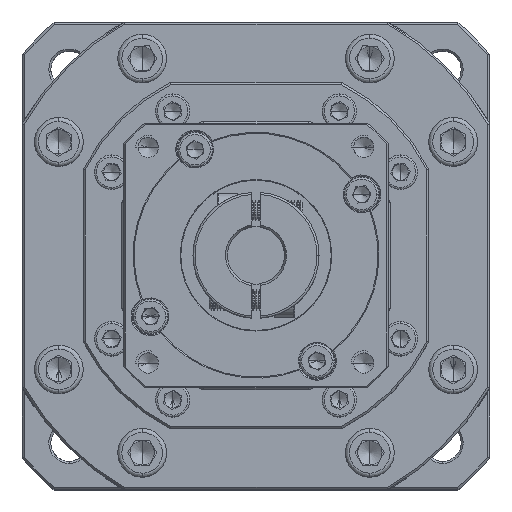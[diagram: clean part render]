
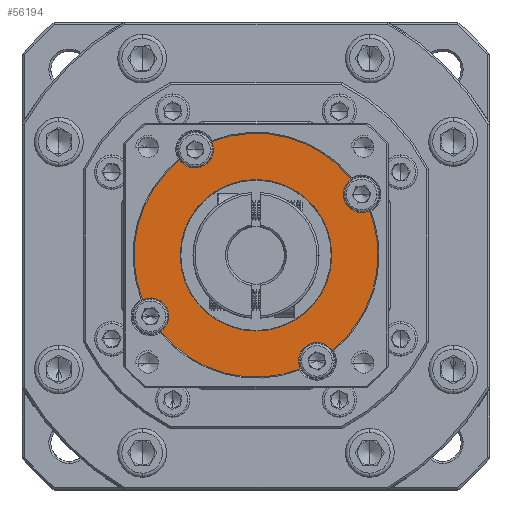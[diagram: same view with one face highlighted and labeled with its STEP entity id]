
A CAD part, top view. The second image highlights one B-rep face of the part: STEP entity #56194.
In plain terms, the highlighted planar face has unit normal (0, 0, 1).
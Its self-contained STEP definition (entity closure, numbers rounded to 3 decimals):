
#453 = VERTEX_POINT ( 'NONE', #86200 ) ;
#1536 = AXIS2_PLACEMENT_3D ( 'NONE', #70038, #14272, #79422 ) ;
#2771 = CARTESIAN_POINT ( 'NONE',  ( -79.679, 50.733, -3.698 ) ) ;
#2830 = VERTEX_POINT ( 'NONE', #39505 ) ;
#4722 = VERTEX_POINT ( 'NONE', #74152 ) ;
#5360 = ORIENTED_EDGE ( 'NONE', *, *, #118291, .F. ) ;
#5392 = EDGE_CURVE ( 'NONE', #453, #114791, #56440, .T. ) ;
#5766 = ORIENTED_EDGE ( 'NONE', *, *, #78296, .F. ) ;
#6013 = ORIENTED_EDGE ( 'NONE', *, *, #106848, .F. ) ;
#6754 = CARTESIAN_POINT ( 'NONE',  ( -71.906, 55.221, -3.698 ) ) ;
#7192 = CIRCLE ( 'NONE', #43390, 30. ) ;
#7287 = EDGE_CURVE ( 'NONE', #4722, #104065, #31806, .T. ) ;
#7452 = ORIENTED_EDGE ( 'NONE', *, *, #22469, .T. ) ;
#7847 = DIRECTION ( 'NONE',  ( 1., 0., 0. ) ) ;
#8284 = AXIS2_PLACEMENT_3D ( 'NONE', #68086, #12352, #77453 ) ;
#8382 = DIRECTION ( 'NONE',  ( 1., 0., 0. ) ) ;
#8725 = DIRECTION ( 'NONE',  ( 1., 0., 0. ) ) ;
#10483 = AXIS2_PLACEMENT_3D ( 'NONE', #119277, #63457, #7847 ) ;
#12352 = DIRECTION ( 'NONE',  ( 0., 0., 1. ) ) ;
#12406 = CARTESIAN_POINT ( 'NONE',  ( -34.981, 42.289, -3.698 ) ) ;
#12507 = VERTEX_POINT ( 'NONE', #82499 ) ;
#13456 = AXIS2_PLACEMENT_3D ( 'NONE', #31183, #96250, #40423 ) ;
#14272 = DIRECTION ( 'NONE',  ( 0., 0., 1. ) ) ;
#15971 = AXIS2_PLACEMENT_3D ( 'NONE', #79952, #24180, #89257 ) ;
#17464 = CIRCLE ( 'NONE', #15971, 18.644 ) ;
#21746 = VERTEX_POINT ( 'NONE', #91969 ) ;
#21761 = DIRECTION ( 'NONE',  ( 1., 0., 0. ) ) ;
#21832 = CARTESIAN_POINT ( 'NONE',  ( -34.981, 42.289, -3.698 ) ) ;
#22256 = DIRECTION ( 'NONE',  ( 0., 0., 1. ) ) ;
#22469 = EDGE_CURVE ( 'NONE', #75748, #114791, #35861, .T. ) ;
#24180 = DIRECTION ( 'NONE',  ( 0., 0., -1. ) ) ;
#24533 = AXIS2_PLACEMENT_3D ( 'NONE', #39106, #104317, #48440 ) ;
#27094 = EDGE_CURVE ( 'NONE', #66024, #44083, #17464, .T. ) ;
#27923 = CARTESIAN_POINT ( 'NONE',  ( -79.606, 27.289, -3.698 ) ) ;
#29345 = CARTESIAN_POINT ( 'NONE',  ( -33.029, 38.234, -3.698 ) ) ;
#30503 = CIRCLE ( 'NONE', #115603, 4.5 ) ;
#31183 = CARTESIAN_POINT ( 'NONE',  ( -60.961, 27.289, -3.698 ) ) ;
#31222 = DIRECTION ( 'NONE',  ( 1., 0., 0. ) ) ;
#31467 = CIRCLE ( 'NONE', #76590, 4.5 ) ;
#31806 = CIRCLE ( 'NONE', #13456, 30. ) ;
#34258 = AXIS2_PLACEMENT_3D ( 'NONE', #99289, #43481, #108632 ) ;
#35861 = CIRCLE ( 'NONE', #10483, 30. ) ;
#36170 = VERTEX_POINT ( 'NONE', #29345 ) ;
#36174 = DIRECTION ( 'NONE',  ( 0., 0., -1. ) ) ;
#36881 = AXIS2_PLACEMENT_3D ( 'NONE', #104683, #48826, #114036 ) ;
#38925 = CARTESIAN_POINT ( 'NONE',  ( -60.961, 27.289, -3.698 ) ) ;
#39106 = CARTESIAN_POINT ( 'NONE',  ( -86.942, 12.289, -3.698 ) ) ;
#39505 = CARTESIAN_POINT ( 'NONE',  ( -50.016, -0.644, -3.698 ) ) ;
#40423 = DIRECTION ( 'NONE',  ( 1., 0., 0. ) ) ;
#40622 = ORIENTED_EDGE ( 'NONE', *, *, #27094, .T. ) ;
#41889 = CARTESIAN_POINT ( 'NONE',  ( -30.961, 27.289, -3.698 ) ) ;
#43049 = CARTESIAN_POINT ( 'NONE',  ( -42.317, 27.289, -3.698 ) ) ;
#43390 = AXIS2_PLACEMENT_3D ( 'NONE', #78021, #22256, #87327 ) ;
#43481 = DIRECTION ( 'NONE',  ( 0., 0., 1. ) ) ;
#44083 = VERTEX_POINT ( 'NONE', #27923 ) ;
#45339 = ORIENTED_EDGE ( 'NONE', *, *, #50978, .F. ) ;
#48261 = DIRECTION ( 'NONE',  ( 1., 0., 0. ) ) ;
#48440 = DIRECTION ( 'NONE',  ( 1., 0., 0. ) ) ;
#48826 = DIRECTION ( 'NONE',  ( 0., 0., 1. ) ) ;
#50978 = EDGE_CURVE ( 'NONE', #75748, #12507, #84906, .T. ) ;
#53320 = ORIENTED_EDGE ( 'NONE', *, *, #5392, .F. ) ;
#55316 = DIRECTION ( 'NONE',  ( 0., 0., 1. ) ) ;
#56194 = ADVANCED_FACE ( 'NONE', ( #66182, #115758 ), #57871, .T. ) ;
#56260 = EDGE_LOOP ( 'NONE', ( #111596, #74420, #113473, #6013, #115970, #64661, #5360, #45339, #7452, #53320, #90703, #59485, #5766 ) ) ;
#56440 = CIRCLE ( 'NONE', #1536, 4.5 ) ;
#57181 = CIRCLE ( 'NONE', #24533, 4.5 ) ;
#57300 = EDGE_CURVE ( 'NONE', #87346, #2830, #65607, .T. ) ;
#57871 = PLANE ( 'NONE',  #36881 ) ;
#59485 = ORIENTED_EDGE ( 'NONE', *, *, #92530, .T. ) ;
#60276 = CIRCLE ( 'NONE', #67359, 30. ) ;
#62383 = CIRCLE ( 'NONE', #104890, 18.644 ) ;
#63457 = DIRECTION ( 'NONE',  ( 0., 0., 1. ) ) ;
#64024 = DIRECTION ( 'NONE',  ( 0., 0., 1. ) ) ;
#64364 = DIRECTION ( 'NONE',  ( 0., 0., 1. ) ) ;
#64661 = ORIENTED_EDGE ( 'NONE', *, *, #98564, .T. ) ;
#65607 = CIRCLE ( 'NONE', #8284, 4.5 ) ;
#65900 = CARTESIAN_POINT ( 'NONE',  ( -88.894, 16.343, -3.698 ) ) ;
#66024 = VERTEX_POINT ( 'NONE', #43049 ) ;
#66182 = FACE_BOUND ( 'NONE', #89701, .T. ) ;
#67359 = AXIS2_PLACEMENT_3D ( 'NONE', #111052, #55316, #120427 ) ;
#68086 = CARTESIAN_POINT ( 'NONE',  ( -45.961, 1.308, -3.698 ) ) ;
#68621 = VERTEX_POINT ( 'NONE', #2771 ) ;
#70038 = CARTESIAN_POINT ( 'NONE',  ( -75.961, 53.269, -3.698 ) ) ;
#72579 = VERTEX_POINT ( 'NONE', #65900 ) ;
#73095 = EDGE_CURVE ( 'NONE', #110927, #2830, #104844, .T. ) ;
#74152 = CARTESIAN_POINT ( 'NONE',  ( -42.244, 3.844, -3.698 ) ) ;
#74420 = ORIENTED_EDGE ( 'NONE', *, *, #73095, .T. ) ;
#75748 = VERTEX_POINT ( 'NONE', #107810 ) ;
#76590 = AXIS2_PLACEMENT_3D ( 'NONE', #119836, #64024, #8382 ) ;
#76884 = AXIS2_PLACEMENT_3D ( 'NONE', #120188, #64364, #8725 ) ;
#77453 = DIRECTION ( 'NONE',  ( 1., 0., 0. ) ) ;
#77508 = DIRECTION ( 'NONE',  ( 0., 0., 1. ) ) ;
#78021 = CARTESIAN_POINT ( 'NONE',  ( -60.961, 27.289, -3.698 ) ) ;
#78296 = EDGE_CURVE ( 'NONE', #21746, #72579, #31467, .T. ) ;
#79422 = DIRECTION ( 'NONE',  ( 1., 0., 0. ) ) ;
#79952 = CARTESIAN_POINT ( 'NONE',  ( -60.961, 27.289, -3.698 ) ) ;
#82499 = CARTESIAN_POINT ( 'NONE',  ( -39.481, 42.289, -3.698 ) ) ;
#84906 = CIRCLE ( 'NONE', #87697, 4.5 ) ;
#86200 = CARTESIAN_POINT ( 'NONE',  ( -71.461, 53.269, -3.698 ) ) ;
#86861 = DIRECTION ( 'NONE',  ( 0., 0., 1. ) ) ;
#87327 = DIRECTION ( 'NONE',  ( 1., 0., 0. ) ) ;
#87346 = VERTEX_POINT ( 'NONE', #115150 ) ;
#87697 = AXIS2_PLACEMENT_3D ( 'NONE', #21832, #86861, #31222 ) ;
#89257 = DIRECTION ( 'NONE',  ( 1., 0., 0. ) ) ;
#89701 = EDGE_LOOP ( 'NONE', ( #40622, #96102 ) ) ;
#90703 = ORIENTED_EDGE ( 'NONE', *, *, #114969, .F. ) ;
#90856 = EDGE_CURVE ( 'NONE', #110927, #21746, #57181, .T. ) ;
#91934 = CARTESIAN_POINT ( 'NONE',  ( -60.961, 27.289, -3.698 ) ) ;
#91969 = CARTESIAN_POINT ( 'NONE',  ( -82.442, 12.289, -3.698 ) ) ;
#92530 = EDGE_CURVE ( 'NONE', #68621, #72579, #7192, .T. ) ;
#96102 = ORIENTED_EDGE ( 'NONE', *, *, #104245, .T. ) ;
#96250 = DIRECTION ( 'NONE',  ( 0., 0., 1. ) ) ;
#98564 = EDGE_CURVE ( 'NONE', #104065, #36170, #60276, .T. ) ;
#99289 = CARTESIAN_POINT ( 'NONE',  ( -45.961, 1.308, -3.698 ) ) ;
#100463 = AXIS2_PLACEMENT_3D ( 'NONE', #38925, #104143, #48261 ) ;
#101307 = DIRECTION ( 'NONE',  ( 1., 0., 0. ) ) ;
#104065 = VERTEX_POINT ( 'NONE', #41889 ) ;
#104143 = DIRECTION ( 'NONE',  ( 0., 0., 1. ) ) ;
#104245 = EDGE_CURVE ( 'NONE', #44083, #66024, #62383, .T. ) ;
#104317 = DIRECTION ( 'NONE',  ( 0., 0., 1. ) ) ;
#104683 = CARTESIAN_POINT ( 'NONE',  ( -60.961, 27.289, -3.698 ) ) ;
#104844 = CIRCLE ( 'NONE', #100463, 30. ) ;
#104890 = AXIS2_PLACEMENT_3D ( 'NONE', #91934, #36174, #101307 ) ;
#106848 = EDGE_CURVE ( 'NONE', #4722, #87346, #115515, .T. ) ;
#107810 = CARTESIAN_POINT ( 'NONE',  ( -37.517, 46.006, -3.698 ) ) ;
#108632 = DIRECTION ( 'NONE',  ( 1., 0., 0. ) ) ;
#110927 = VERTEX_POINT ( 'NONE', #113611 ) ;
#111052 = CARTESIAN_POINT ( 'NONE',  ( -60.961, 27.289, -3.698 ) ) ;
#111596 = ORIENTED_EDGE ( 'NONE', *, *, #90856, .F. ) ;
#113473 = ORIENTED_EDGE ( 'NONE', *, *, #57300, .F. ) ;
#113611 = CARTESIAN_POINT ( 'NONE',  ( -84.406, 8.571, -3.698 ) ) ;
#114036 = DIRECTION ( 'NONE',  ( 1., 0., 0. ) ) ;
#114791 = VERTEX_POINT ( 'NONE', #6754 ) ;
#114969 = EDGE_CURVE ( 'NONE', #68621, #453, #117046, .T. ) ;
#115150 = CARTESIAN_POINT ( 'NONE',  ( -50.461, 1.308, -3.698 ) ) ;
#115515 = CIRCLE ( 'NONE', #34258, 4.5 ) ;
#115603 = AXIS2_PLACEMENT_3D ( 'NONE', #12406, #77508, #21761 ) ;
#115758 = FACE_OUTER_BOUND ( 'NONE', #56260, .T. ) ;
#115970 = ORIENTED_EDGE ( 'NONE', *, *, #7287, .T. ) ;
#117046 = CIRCLE ( 'NONE', #76884, 4.5 ) ;
#118291 = EDGE_CURVE ( 'NONE', #12507, #36170, #30503, .T. ) ;
#119277 = CARTESIAN_POINT ( 'NONE',  ( -60.961, 27.289, -3.698 ) ) ;
#119836 = CARTESIAN_POINT ( 'NONE',  ( -86.942, 12.289, -3.698 ) ) ;
#120188 = CARTESIAN_POINT ( 'NONE',  ( -75.961, 53.269, -3.698 ) ) ;
#120427 = DIRECTION ( 'NONE',  ( 1., 0., 0. ) ) ;
